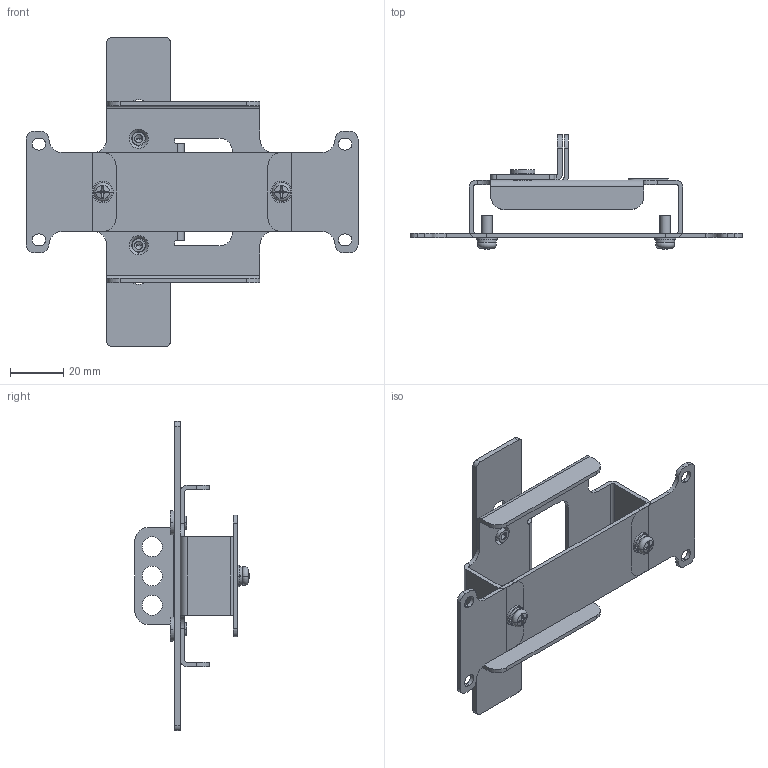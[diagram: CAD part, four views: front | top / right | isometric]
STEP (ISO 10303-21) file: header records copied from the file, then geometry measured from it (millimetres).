
FILE_DESCRIPTION((''),'2;1');
FILE_NAME('U1_3P_INTERLOCK_ASSY_ASM','2018-06-04T',('HHI'),(''),'PRO/ENGINEER BY PARAMETRIC TECHNOLOGY CORPORATION, 2012453','PRO/ENGINEER BY PARAMETRIC TECHNOLOGY CORPORATION, 2012453','');
FILE_SCHEMA(('CONFIG_CONTROL_DESIGN'));
Length unit declared in the file: millimetre
Products named in the file (11): U1_INTERLOCK_ASSY_SKEL0001; U1_INTERLOCK_FRAME; U1_INTERLOCK_GUIDE; U1_3P_INTERLOCK_BAR; U6_LEVER_PIN; U1_MIF_16GP_3_LABEL; M4_L10_PH_SCREW; D4_ASSY2_SPRING_WASHER; D4_SMALL_PLAIN_WASHER; M4_L10_P_SW_PH_SCREW_ASM; U1_3P_INTERLOCK_ASSY_ASM
Assembly tree (12 placements, depth 3):
  U1_3P_INTERLOCK_ASSY_ASM
    U1_INTERLOCK_ASSY_SKEL0001
    U1_INTERLOCK_FRAME
    U1_INTERLOCK_GUIDE
    U1_3P_INTERLOCK_BAR
    U6_LEVER_PIN  x2
    U1_MIF_16GP_3_LABEL
    M4_L10_P_SW_PH_SCREW_ASM  x2
      M4_L10_PH_SCREW
      D4_ASSY2_SPRING_WASHER
      D4_SMALL_PLAIN_WASHER
Bounding box: 124.6 x 42.87 x 116 mm (x, y, z)
Volume: 24041 mm3; surface area: 32262.9 mm2
Topology: 12 solids, 12 shells, 389 faces, 1011 edges, 664 vertices
Faces by surface type: plane 192, cylinder 136, extrusion 37, torus 12, cone 8, sphere 4
Entity records: 10867 total; most frequent: CARTESIAN_POINT 2399, ORIENTED_EDGE 1716, DIRECTION 1691, EDGE_CURVE 858, AXIS2_PLACEMENT_3D 570, VERTEX_POINT 567, VECTOR 551, LINE 514
